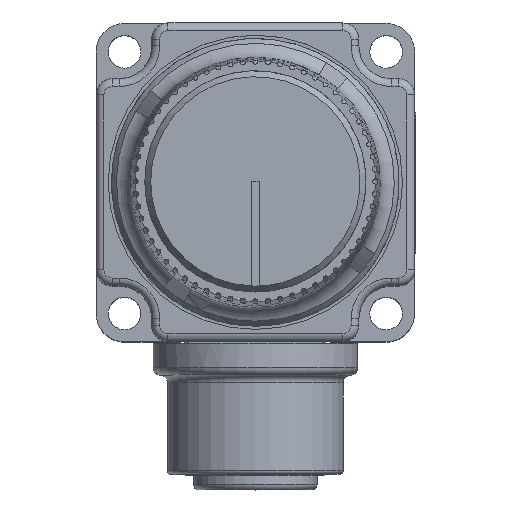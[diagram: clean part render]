
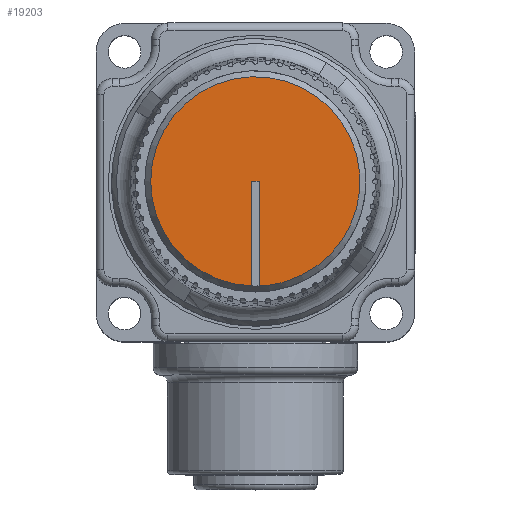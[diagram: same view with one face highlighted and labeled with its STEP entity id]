
A CAD part, top view. The second image highlights one B-rep face of the part: STEP entity #19203.
In plain terms, the highlighted planar face has unit normal (0, 0, 1).
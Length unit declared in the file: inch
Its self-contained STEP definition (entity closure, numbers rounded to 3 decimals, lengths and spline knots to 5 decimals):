
#969=PLANE('',#20842);
#1812=FACE_OUTER_BOUND('',#2934,.T.);
#2934=EDGE_LOOP('',(#15154,#15155,#15156,#15157,#15158));
#3813=CIRCLE('',#20843,0.4);
#3814=CIRCLE('',#20844,0.4);
#5376=LINE('',#32791,#6746);
#5377=LINE('',#32797,#6747);
#5378=LINE('',#32798,#6748);
#6746=VECTOR('',#25048,0.3937);
#6747=VECTOR('',#25053,0.3937);
#6748=VECTOR('',#25054,0.3937);
#8326=VERTEX_POINT('',#32789);
#8327=VERTEX_POINT('',#32790);
#8328=VERTEX_POINT('',#32792);
#8329=VERTEX_POINT('',#32794);
#8330=VERTEX_POINT('',#32796);
#10711=EDGE_CURVE('',#8326,#8327,#5376,.T.);
#10712=EDGE_CURVE('',#8327,#8328,#3813,.T.);
#10713=EDGE_CURVE('',#8328,#8329,#3814,.T.);
#10714=EDGE_CURVE('',#8329,#8330,#5377,.T.);
#10715=EDGE_CURVE('',#8330,#8326,#5378,.T.);
#15154=ORIENTED_EDGE('',*,*,#10711,.T.);
#15155=ORIENTED_EDGE('',*,*,#10712,.T.);
#15156=ORIENTED_EDGE('',*,*,#10713,.T.);
#15157=ORIENTED_EDGE('',*,*,#10714,.T.);
#15158=ORIENTED_EDGE('',*,*,#10715,.T.);
#19203=ADVANCED_FACE('',(#1812),#969,.T.);
#20842=AXIS2_PLACEMENT_3D('',#32788,#25046,#25047);
#20843=AXIS2_PLACEMENT_3D('',#32793,#25049,#25050);
#20844=AXIS2_PLACEMENT_3D('',#32795,#25051,#25052);
#25046=DIRECTION('center_axis',(0.,0.,1.));
#25047=DIRECTION('ref_axis',(1.,0.,0.));
#25048=DIRECTION('',(0.,-1.,0.));
#25049=DIRECTION('center_axis',(0.,0.,
1.));
#25050=DIRECTION('ref_axis',(0.325,0.946,0.));
#25051=DIRECTION('center_axis',(0.,0.,
1.));
#25052=DIRECTION('ref_axis',(0.325,0.946,0.));
#25053=DIRECTION('',(0.,1.,0.));
#25054=DIRECTION('',(1.,0.,0.));
#32788=CARTESIAN_POINT('Origin',(-0.47298,-0.33219,
1.82375));
#32789=CARTESIAN_POINT('',(-0.45798,0.06792,1.82375));
#32790=CARTESIAN_POINT('',(-0.45798,-0.3318,1.82375));
#32791=CARTESIAN_POINT('',(-0.45798,0.06792,1.82375));
#32792=CARTESIAN_POINT('',(-0.3588,-0.31543,1.82375));
#32793=CARTESIAN_POINT('Origin',(-0.47298,0.06792,
1.82375));
#32794=CARTESIAN_POINT('',(-0.48798,-0.3318,1.82375));
#32795=CARTESIAN_POINT('Origin',(-0.47298,0.06792,
1.82375));
#32796=CARTESIAN_POINT('',(-0.48798,0.06792,1.82375));
#32797=CARTESIAN_POINT('',(-0.48798,-0.3318,1.82375));
#32798=CARTESIAN_POINT('',(-0.48798,0.06792,1.82375));
